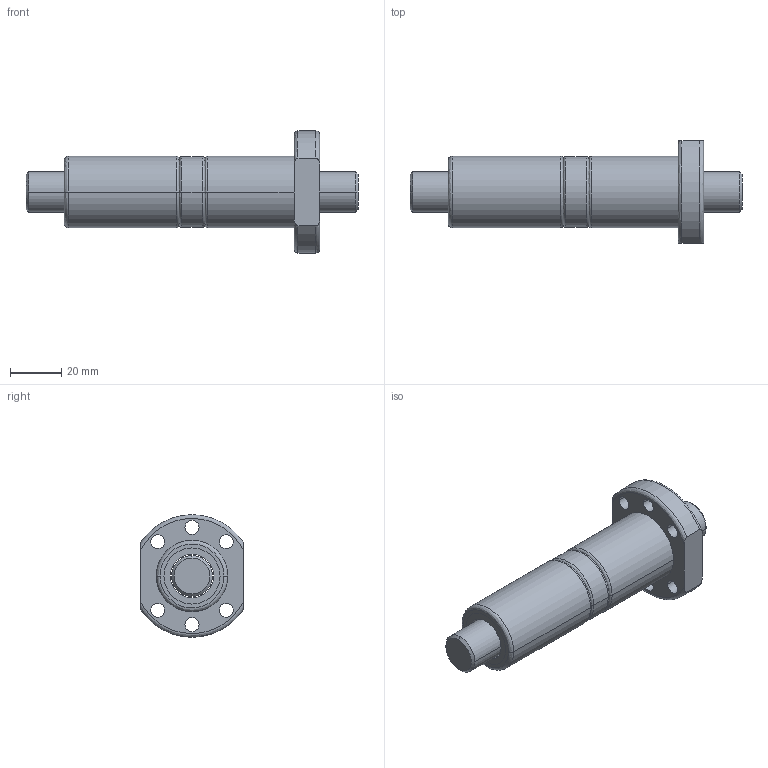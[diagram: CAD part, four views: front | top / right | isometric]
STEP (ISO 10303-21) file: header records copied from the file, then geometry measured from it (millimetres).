
FILE_DESCRIPTION (( 'STEP AP203' ), '1' );
FILE_NAME ('DFU01605.STEP', '2013-01-21T07:18:45', ( 'Halezer' ), ( '' ), 'SwSTEP 2.0', 'SolidWorks 2010', '' );
FILE_SCHEMA (( 'CONFIG_CONTROL_DESIGN' ));
Length unit declared in the file: millimetre
Products named in the file (1): DFU01605
Bounding box: 130 x 40 x 48 mm (x, y, z)
Volume: 73703.6 mm3; surface area: 28691.8 mm2
Topology: 6 solids, 6 shells, 75 faces, 168 edges, 108 vertices
Faces by surface type: cylinder 40, plane 17, bspline 14, cone 4
Entity records: 2615 total; most frequent: CARTESIAN_POINT 846, DIRECTION 366, ORIENTED_EDGE 336, EDGE_CURVE 168, AXIS2_PLACEMENT_3D 158, VERTEX_POINT 108, EDGE_LOOP 100, CIRCLE 96
